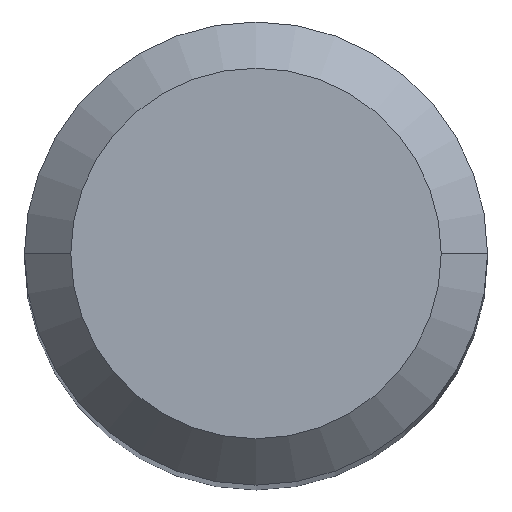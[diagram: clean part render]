
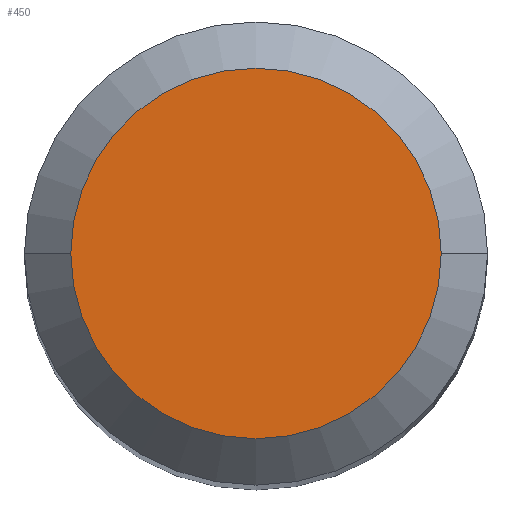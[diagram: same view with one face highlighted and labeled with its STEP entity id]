
A CAD part, top view. The second image highlights one B-rep face of the part: STEP entity #450.
In plain terms, the highlighted planar face has unit normal (0, 0, 1).
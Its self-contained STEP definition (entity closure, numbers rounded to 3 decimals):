
#27 = CIRCLE ( 'NONE', #381, 2.4 ) ;
#55 = CARTESIAN_POINT ( 'NONE',  ( 0., 0., 0. ) ) ;
#80 = CARTESIAN_POINT ( 'NONE',  ( 2.4, 0., 0. ) ) ;
#103 = DIRECTION ( 'NONE',  ( 0., 0., -1. ) ) ;
#129 = DIRECTION ( 'NONE',  ( 0., 0., -1. ) ) ;
#188 = ORIENTED_EDGE ( 'NONE', *, *, #435, .F. ) ;
#196 = VERTEX_POINT ( 'NONE', #429 ) ;
#233 = VERTEX_POINT ( 'NONE', #80 ) ;
#249 = EDGE_CURVE ( 'NONE', #196, #233, #441, .T. ) ;
#252 = PLANE ( 'NONE',  #414 ) ;
#256 = AXIS2_PLACEMENT_3D ( 'NONE', #426, #103, #420 ) ;
#257 = ORIENTED_EDGE ( 'NONE', *, *, #249, .F. ) ;
#336 = FACE_OUTER_BOUND ( 'NONE', #415, .T. ) ;
#340 = DIRECTION ( 'NONE',  ( 1., 0., 0. ) ) ;
#381 = AXIS2_PLACEMENT_3D ( 'NONE', #55, #129, #473 ) ;
#400 = DIRECTION ( 'NONE',  ( 0., 0., 1. ) ) ;
#414 = AXIS2_PLACEMENT_3D ( 'NONE', #478, #400, #340 ) ;
#415 = EDGE_LOOP ( 'NONE', ( #257, #188 ) ) ;
#420 = DIRECTION ( 'NONE',  ( -1., 0., 0. ) ) ;
#426 = CARTESIAN_POINT ( 'NONE',  ( 0., 0., 0. ) ) ;
#429 = CARTESIAN_POINT ( 'NONE',  ( -2.4, 0., 0. ) ) ;
#435 = EDGE_CURVE ( 'NONE', #233, #196, #27, .T. ) ;
#441 = CIRCLE ( 'NONE', #256, 2.4 ) ;
#450 = ADVANCED_FACE ( 'NONE', ( #336 ), #252, .T. ) ;
#473 = DIRECTION ( 'NONE',  ( -1., 0., 0. ) ) ;
#478 = CARTESIAN_POINT ( 'NONE',  ( 0., 2.4, 0. ) ) ;
